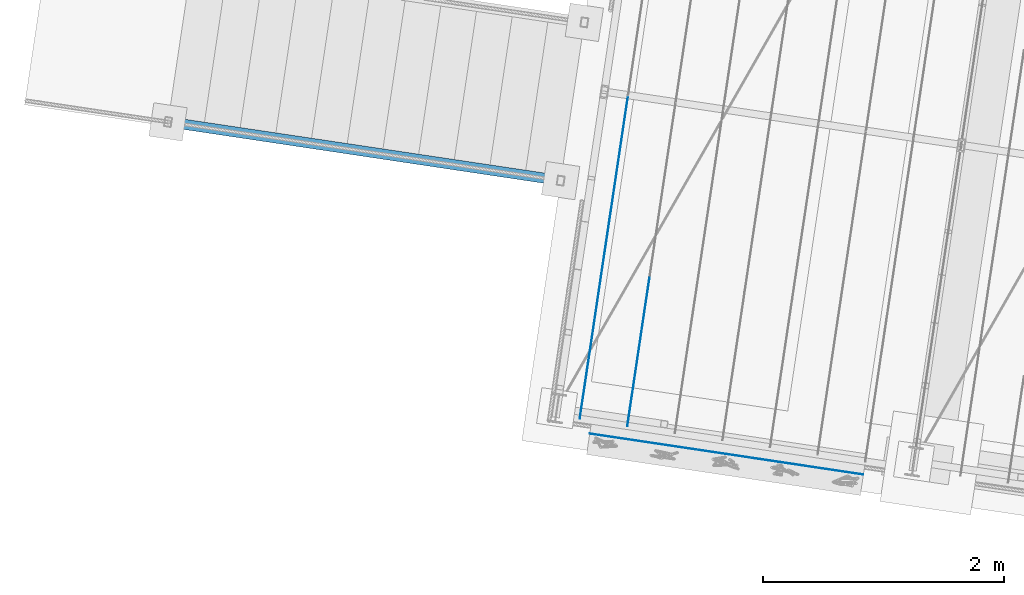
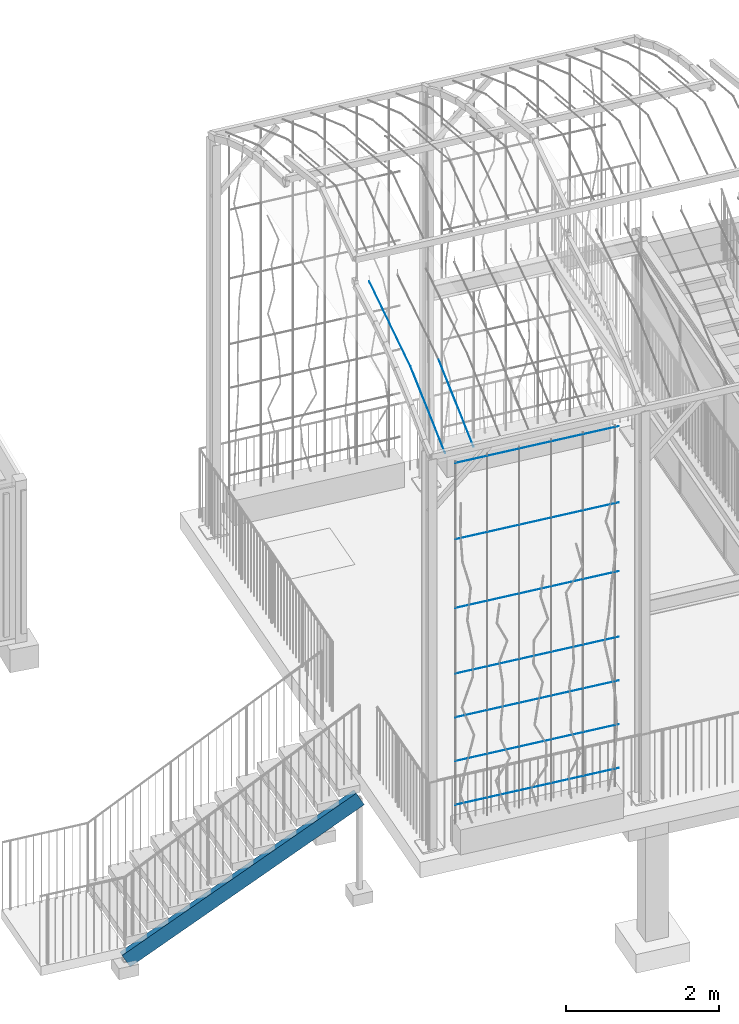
# One storey, part 10 of 142: 11 members, 3 elements without a shape of their own.
"""IFC4 building model written with IfcOpenShell, lengths in metres."""

from ifc_helpers import new_model, si_unit, direction, frame, origin_with_axes, place, context, subcontext, project, spatial, polyline, circle, outline, extrude, material, material_profile, profile_set, profile_usage, type_object, element, aggregate, save


model = new_model("IFC4")

# Units and contexts
model_context = context("Model", 3, precision=1e-05, world=origin_with_axes(), true_north=direction((0.0, 1.0)))
body_context = subcontext(model_context, "Body", "Model", "MODEL_VIEW")
ifc_project = project(units=[si_unit("LENGTHUNIT", "METRE"), si_unit("AREAUNIT", "SQUARE_METRE"), si_unit("VOLUMEUNIT", "CUBIC_METRE")], contexts=[model_context])

# Site, building, storey
site_placement = place(None, origin_with_axes())
site = spatial("IfcSite", under=ifc_project, at=site_placement, Name="Lares · Rua das Mercês · artigo 4771")
building_placement = place(site_placement, frame((15.0, 9.7, 14.65), z_axis=(0.0, 0.0, 1.0), x_axis=(0.989015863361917, -0.147809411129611, 0.0)))
building = spatial("IfcBuilding", under=site, at=building_placement, Name="Casa Sobreposta")
storey_placement = place(building_placement, origin_with_axes())
storey = spatial("IfcBuildingStorey", under=building, at=storey_placement, Name="00 · Habitação e estacionamento", Elevation=14.65)

# Stair, member
stair_placement = place(storey_placement, origin_with_axes())
stair = element("IfcStair", 1, at=stair_placement, inside=storey, Name="Jardim · escada pela fachada poente", PredefinedType="STRAIGHT_RUN_STAIR")
ifc_material_1 = material(Name="Aço pintado / Stahl lackiert", Category="steel")
ifc_material_profile_1 = material_profile(ifc_material_1, outline(polyline([(-0.0425, -0.12), (0.0425, -0.12), (0.0425, -0.1102), (-0.0325, -0.1102), (-0.0325, 0.1102), (0.0425, 0.1102), (0.0425, 0.12), (-0.0425, 0.12), (-0.0425, -0.12)])))
ifc_profile_set_1 = profile_set([ifc_material_profile_1], Name="C240")
ifc_profile_usage_1 = profile_usage(ifc_profile_set_1)
member_type_1 = type_object("IfcMemberType", Name="C240 / steel", PredefinedType="NOTDEFINED", material=ifc_profile_set_1)
member_1_placement = place(stair_placement, frame((-6.25, 0.435, -0.419166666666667), z_axis=(-0.883369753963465, 0.0, -0.468676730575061), x_axis=(0.0, 1.0, 0.0)))
member_1 = element("IfcMember", 2, at=member_1_placement, type_object=member_type_1, material=ifc_profile_usage_1, Name="Jardim · longarina poente", context=body_context, shape_type="SweptSolid", body=[
    extrude(outline(polyline([(-0.0425, -0.12), (0.0425, -0.12), (0.0425, -0.1102), (-0.0325, -0.1102), (-0.0325, 0.1102), (0.0425, 0.1102), (0.0425, 0.12), (-0.0425, 0.12), (-0.0425, -0.12)])), origin_with_axes(), (0.0, 0.0, 1.0), 3.73569503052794),
])
aggregate(stair, [member_1])

# Assembly, members
assembly_1_placement = place(storey_placement, origin_with_axes())
assembly_1 = element("IfcElementAssembly", 3, at=assembly_1_placement, inside=storey, Name="Pérgola · prolongamento da estufa 6 m", ObjectType="PERGOLA_GREENHOUSE_EXTENSION", PredefinedType="USERDEFINED")
ifc_material_2 = material(Name="Aço galvanizado / Stahl verzinkt", Category="steel")
ifc_material_profile_2 = material_profile(ifc_material_2, circle(Radius=0.002))
ifc_profile_set_2 = profile_set([ifc_material_profile_2], Name="D0.004")
ifc_profile_usage_2 = profile_usage(ifc_profile_set_2)
member_type_2 = type_object("IfcMemberType", Name="D0.004 / galvanized", PredefinedType="NOTDEFINED", material=ifc_profile_set_2)
member_2_placement = place(assembly_1_placement, frame((-5.8, -1.5, 6.23430000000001), z_axis=(0.0, 0.905876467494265, 0.423541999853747), x_axis=(1.0, 0.0, 0.0)))
member_2 = element("IfcMember", 4, at=member_2_placement, type_object=member_type_2, material=ifc_profile_usage_2, Name="Pérgola · fio para trepadeiras", context=body_context, shape_type="SweptSolid", body=[
    extrude(circle(Radius=0.002), origin_with_axes(), (0.0, 0.0, 1.0), 1.37271642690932),
])
ifc_profile_usage_3 = profile_usage(ifc_profile_set_2)
member_3_placement = place(assembly_1_placement, frame((-5.8, -0.256488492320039, 6.81570306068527), z_axis=(0.0, 0.96535496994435, 0.260940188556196), x_axis=(1.0, 0.0, 0.0)))
member_3 = element("IfcMember", 5, at=member_3_placement, type_object=member_type_2, material=ifc_profile_usage_3, Name="Pérgola · fio para trepadeiras", context=body_context, shape_type="SweptSolid", body=[
    extrude(circle(Radius=0.002), origin_with_axes(), (0.0, 0.0, 1.0), 1.52368621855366),
])
ifc_profile_usage_4 = profile_usage(ifc_profile_set_2)
member_4_placement = place(assembly_1_placement, frame((-5.4, -1.5, 6.23430000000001), z_axis=(0.0, 0.905876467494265, 0.423541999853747), x_axis=(1.0, 0.0, 0.0)))
member_4 = element("IfcMember", 6, at=member_4_placement, type_object=member_type_2, material=ifc_profile_usage_4, Name="Pérgola · fio para trepadeiras", context=body_context, shape_type="SweptSolid", body=[
    extrude(circle(Radius=0.002), origin_with_axes(), (0.0, 0.0, 1.0), 1.37271642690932),
])
aggregate(assembly_1, [member_2, member_3, member_4])

assembly_2_placement = place(storey_placement, origin_with_axes())
assembly_2 = element("IfcElementAssembly", 7, at=assembly_2_placement, inside=storey, Name="Fachada sul e pátio · estrutura e trepadeiras", ObjectType="LIVING_SHADE_TRELLIS", PredefinedType="USERDEFINED")
ifc_profile_usage_5 = profile_usage(ifc_profile_set_2)
member_5_placement = place(assembly_2_placement, frame((-5.7, -1.61, 0.65), z_axis=(1.0, 0.0, 0.0), x_axis=(0.0, -1.0, 0.0)))
member_5 = element("IfcMember", 8, at=member_5_placement, type_object=member_type_2, material=ifc_profile_usage_5, Name="Trepadeiras · fio horizontal", context=body_context, shape_type="SweptSolid", body=[
    extrude(circle(Radius=0.002), origin_with_axes(), (0.0, 0.0, 1.0), 2.3),
])
ifc_profile_usage_6 = profile_usage(ifc_profile_set_2)
member_6_placement = place(assembly_2_placement, frame((-5.7, -1.61, 1.35), z_axis=(1.0, 0.0, 0.0), x_axis=(0.0, -1.0, 0.0)))
member_6 = element("IfcMember", 9, at=member_6_placement, type_object=member_type_2, material=ifc_profile_usage_6, Name="Trepadeiras · fio horizontal", context=body_context, shape_type="SweptSolid", body=[
    extrude(circle(Radius=0.002), origin_with_axes(), (0.0, 0.0, 1.0), 2.3),
])
ifc_profile_usage_7 = profile_usage(ifc_profile_set_2)
member_7_placement = place(assembly_2_placement, frame((-5.7, -1.61, 2.05), z_axis=(1.0, 0.0, 0.0), x_axis=(0.0, -1.0, 0.0)))
member_7 = element("IfcMember", 10, at=member_7_placement, type_object=member_type_2, material=ifc_profile_usage_7, Name="Trepadeiras · fio horizontal", context=body_context, shape_type="SweptSolid", body=[
    extrude(circle(Radius=0.002), origin_with_axes(), (0.0, 0.0, 1.0), 2.3),
])
ifc_profile_usage_8 = profile_usage(ifc_profile_set_2)
member_8_placement = place(assembly_2_placement, frame((-5.7, -1.61, 2.75), z_axis=(1.0, 0.0, 0.0), x_axis=(0.0, -1.0, 0.0)))
member_8 = element("IfcMember", 11, at=member_8_placement, type_object=member_type_2, material=ifc_profile_usage_8, Name="Trepadeiras · fio horizontal", context=body_context, shape_type="SweptSolid", body=[
    extrude(circle(Radius=0.002), origin_with_axes(), (0.0, 0.0, 1.0), 2.3),
])
ifc_profile_usage_9 = profile_usage(ifc_profile_set_2)
member_9_placement = place(assembly_2_placement, frame((-5.7, -1.61, 3.8), z_axis=(1.0, 0.0, 0.0), x_axis=(0.0, -1.0, 0.0)))
member_9 = element("IfcMember", 12, at=member_9_placement, type_object=member_type_2, material=ifc_profile_usage_9, Name="Trepadeiras · fio horizontal", context=body_context, shape_type="SweptSolid", body=[
    extrude(circle(Radius=0.002), origin_with_axes(), (0.0, 0.0, 1.0), 2.3),
])
ifc_profile_usage_10 = profile_usage(ifc_profile_set_2)
member_10_placement = place(assembly_2_placement, frame((-5.7, -1.61, 4.9), z_axis=(1.0, 0.0, 0.0), x_axis=(0.0, -1.0, 0.0)))
member_10 = element("IfcMember", 13, at=member_10_placement, type_object=member_type_2, material=ifc_profile_usage_10, Name="Trepadeiras · fio horizontal", context=body_context, shape_type="SweptSolid", body=[
    extrude(circle(Radius=0.002), origin_with_axes(), (0.0, 0.0, 1.0), 2.3),
])
ifc_profile_usage_11 = profile_usage(ifc_profile_set_2)
member_11_placement = place(assembly_2_placement, frame((-5.7, -1.61, 6.12), z_axis=(1.0, 0.0, 0.0), x_axis=(0.0, -1.0, 0.0)))
member_11 = element("IfcMember", 14, at=member_11_placement, type_object=member_type_2, material=ifc_profile_usage_11, Name="Trepadeiras · fio horizontal", context=body_context, shape_type="SweptSolid", body=[
    extrude(circle(Radius=0.002), origin_with_axes(), (0.0, 0.0, 1.0), 2.3),
])
aggregate(assembly_2, [member_5, member_6, member_7, member_8, member_9, member_10, member_11])

save(model, "model.ifc")
